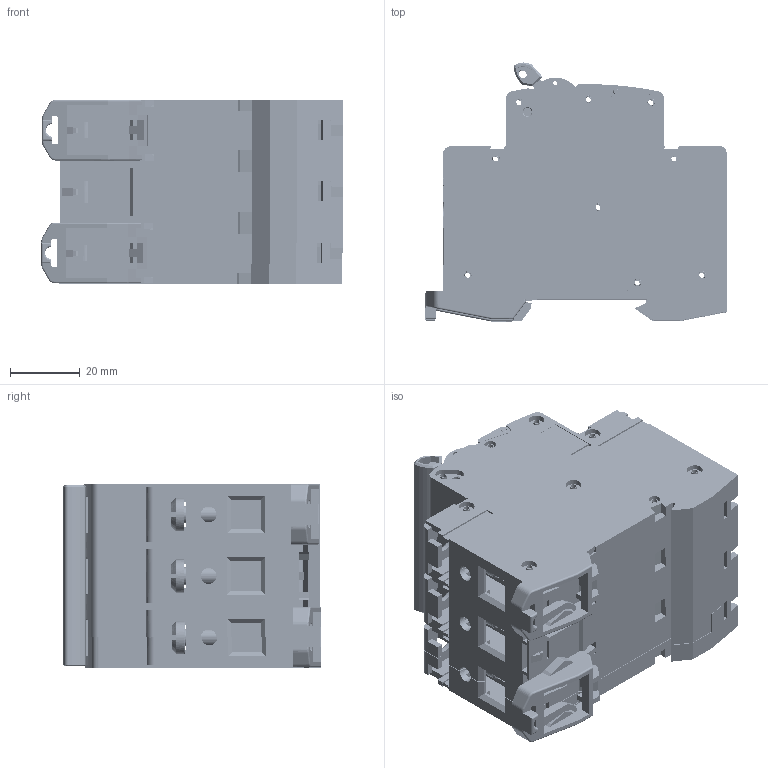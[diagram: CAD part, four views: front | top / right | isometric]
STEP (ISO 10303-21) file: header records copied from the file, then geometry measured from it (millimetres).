
FILE_DESCRIPTION (( 'STEP AP203' ), '1' );
FILE_NAME ('BKN-b 3P三维外形 .STEP', '2016-03-18T06:00:41', ( 'User' ), ( 'Company' ), 'SwSTEP 2.0', 'SolidWorks 2013', '' );
FILE_SCHEMA (( 'CONFIG_CONTROL_DESIGN' ));
Length unit declared in the file: millimetre
Products named in the file (16): 8YJ.322.4300; 8YJ.550.4301; BKN-b 三维外形; 8YJ.315.4301; 8YJ.233.4303忒梟蟀裝3P; 8YJ.148.4300; BKN-b  3P三维外形 ; 8YJ.321.4300; 8YJ.941.4300; 8JV.024.31600; 8YJ.288.4300(菴媼妗瞰); 8JV.315.31600; 8YJ.967.4300(默认); 8JV.253.31600; hexagon socket set screws with cup point gb(GB_SOCKET_SET_TYPE4 M2.5X8-C); 8YJ.900.4300
Assembly tree (49 placements, depth 3):
  BKN-b  3P三维外形 
    8JV.024.31600
    8JV.315.31600
    8JV.253.31600
    8YJ.900.4300  x2
    8YJ.550.4301
    8YJ.315.4301
    8YJ.148.4300  x2
    8YJ.321.4300
    8YJ.941.4300
    8YJ.288.4300(菴媼妗瞰)
    8YJ.967.4300(默认)  x9
    hexagon socket set screws with cup point gb(GB_SOCKET_SET_TYPE4 M2.5X8-C)
    8YJ.322.4300  x2
    BKN-b 三维外形  x2
      8JV.024.31600
      8JV.315.31600
      8JV.253.31600
      8YJ.900.4300
      8YJ.550.4301
      8YJ.315.4301
      8YJ.321.4300
      8YJ.941.4300
      8YJ.288.4300(菴媼妗瞰)
      8YJ.967.4300(默认)
      hexagon socket set screws with cup point gb(GB_SOCKET_SET_TYPE4 M2.5X8-C)
      8YJ.322.4300
    8YJ.233.4303忒梟蟀裝3P
Bounding box: 86.2 x 74.04 x 52.8 mm (x, y, z)
Volume: 87449.2 mm3; surface area: 136747.1 mm2
Topology: 96 solids, 96 shells, 8317 faces, 22287 edges, 14500 vertices
Faces by surface type: plane 5936, cylinder 1412, bspline 677, cone 292
Entity records: 109145 total; most frequent: CARTESIAN_POINT 40212, ORIENTED_EDGE 14676, DIRECTION 12138, EDGE_CURVE 7338, LINE 5560, VECTOR 5560, VERTEX_POINT 4799, AXIS2_PLACEMENT_3D 3289
